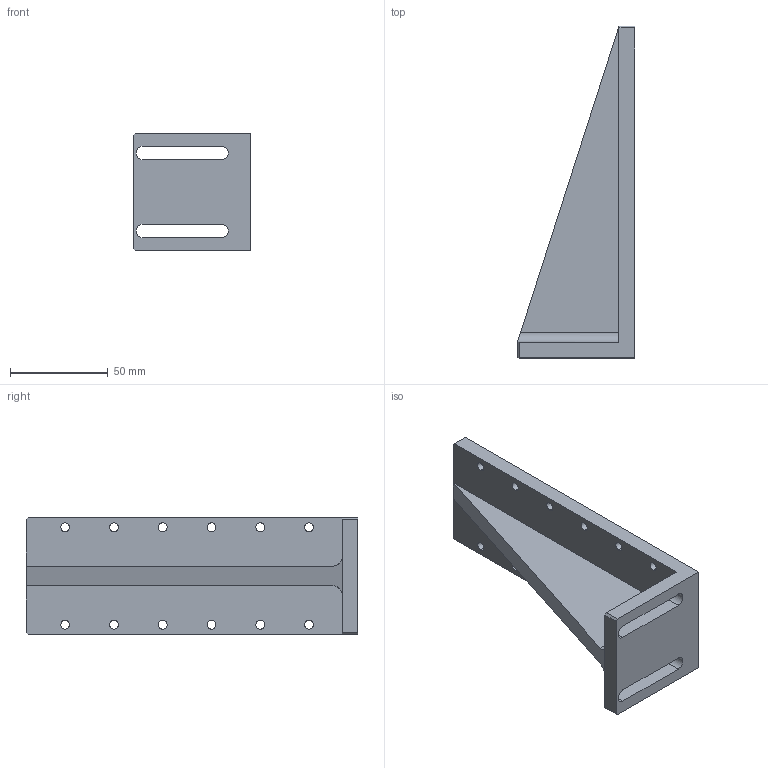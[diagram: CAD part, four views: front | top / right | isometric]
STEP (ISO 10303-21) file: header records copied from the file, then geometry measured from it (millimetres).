
FILE_DESCRIPTION (( 'STEP AP214' ), '1' );
FILE_NAME ('60LÐÍ°å-170.STEP', '2022-08-22T06:06:14', ( '' ), ( '' ), 'SwSTEP 2.0', 'SolidWorks 2016', '' );
FILE_SCHEMA (( 'AUTOMOTIVE_DESIGN' ));
Length unit declared in the file: millimetre
Products named in the file (1): 60L倰啣-170
Bounding box: 60 x 170 x 60 mm (x, y, z)
Volume: 142595.6 mm3; surface area: 40224.3 mm2
Topology: 1 solids, 1 shells, 51 faces, 143 edges, 94 vertices
Faces by surface type: cylinder 30, plane 21
Entity records: 1753 total; most frequent: DIRECTION 303, CARTESIAN_POINT 295, ORIENTED_EDGE 286, EDGE_CURVE 143, AXIS2_PLACEMENT_3D 110, VERTEX_POINT 94, LINE 83, VECTOR 83
